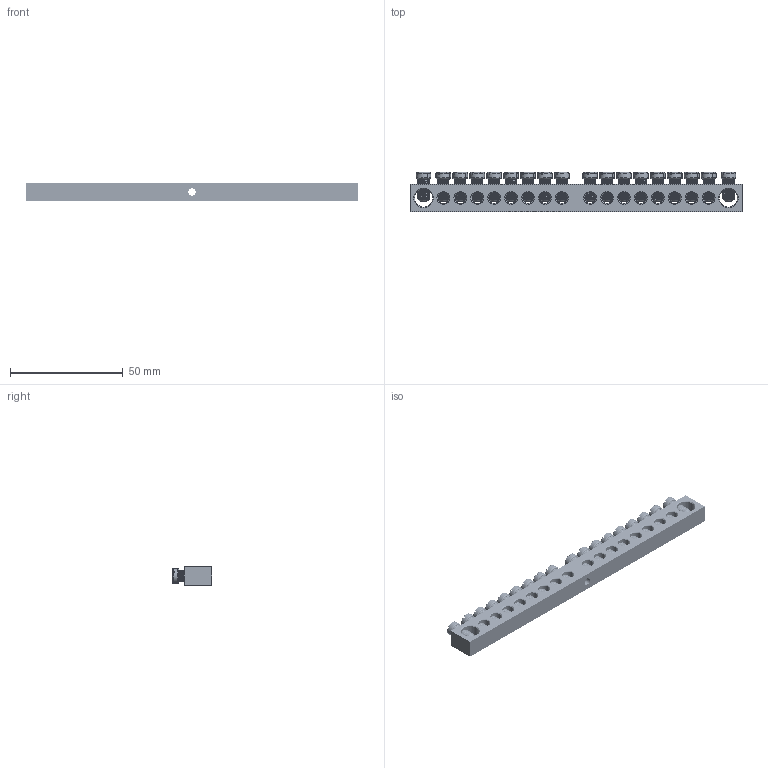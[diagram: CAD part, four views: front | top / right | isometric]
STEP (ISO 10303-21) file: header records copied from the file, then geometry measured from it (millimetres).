
FILE_DESCRIPTION (( 'STEP AP214' ), '1' );
FILE_NAME ('Øèíà íóëåâàÿ ñ êðåïåæíûì îòâåðñòèåì ïî öåíòðó 8õ12 18-1.STEP', '2020-02-07T06:06:37', ( '' ), ( '' ), 'SwSTEP 2.0', 'SolidWorks 2018', '' );
FILE_SCHEMA (( 'AUTOMOTIVE_DESIGN' ));
Length unit declared in the file: millimetre
Products named in the file (3): Âèíò ì5; Øèíà 8õ12 18 1; Øèíà íóëåâàÿ ñ êðåïåæíûì îòâåðñòèåì ïî öåíòðó 8õ12 18-1
Assembly tree (19 placements, depth 2):
  Øèíà íóëåâàÿ ñ êðåïåæíûì îòâåðñòèåì ïî öåíòðó 8õ12 18-1
    Øèíà 8õ12 18 1
    Âèíò ì5  x18
Bounding box: 147 x 17.3 x 8 mm (x, y, z)
Volume: 14411.7 mm3; surface area: 14009.5 mm2
Topology: 19 solids, 19 shells, 1502 faces, 4158 edges, 2676 vertices
Faces by surface type: cylinder 578, plane 492, cone 252, torus 126, bspline 54
Entity records: 10487 total; most frequent: CARTESIAN_POINT 4313, ORIENTED_EDGE 1172, DIRECTION 1171, EDGE_CURVE 586, AXIS2_PLACEMENT_3D 467, VERTEX_POINT 364, EDGE_LOOP 302, VECTOR 237
